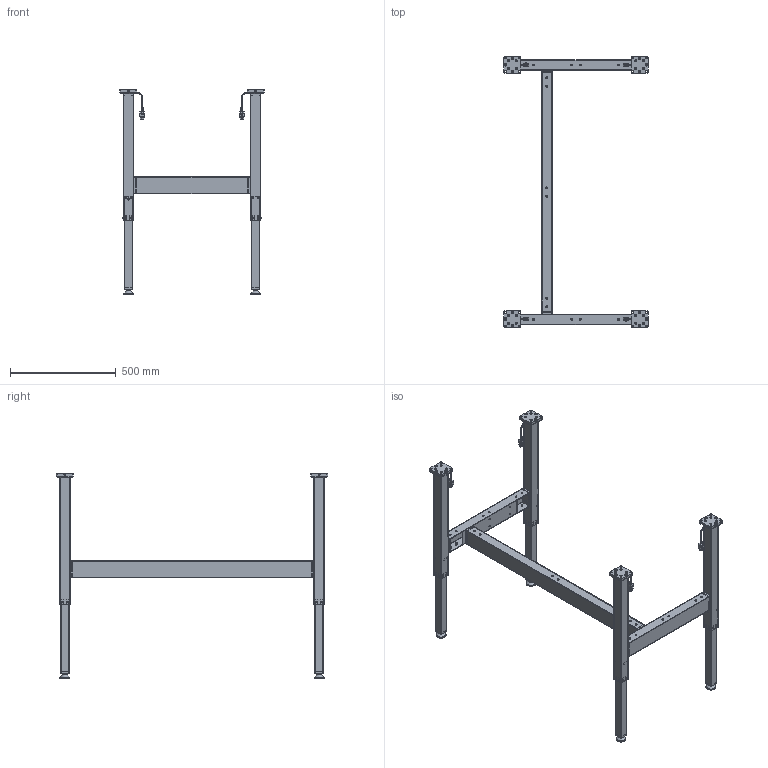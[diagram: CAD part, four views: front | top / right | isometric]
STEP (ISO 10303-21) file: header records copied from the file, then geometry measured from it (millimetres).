
FILE_DESCRIPTION(/* description */ ('Unknown'),/* implementation_level */ '2;1');
FILE_NAME(/* name */ 'Untergestell SE.3 4330 1200_00-Ausgefahren',/* time_stamp */ '2022-02-03T17:12:32+01:00',/* author */ ('Unknown'),/* organization */ ('Unknown'),/* preprocessor_version */ 'ST-DEVELOPER v18.1',/* originating_system */ 'Solid Edge',/* authorisation */ 'Unknown');
FILE_SCHEMA (('AUTOMOTIVE_DESIGN {1 0 10303 214 3 1 1}'));
Length unit declared in the file: millimetre
Products named in the file (29): Untergestell SE.3 4330 1200; 908.02003_oa_0; 127.00655; 127.00658; Aussenrohr 50x50x2 bearbeitet_2018 08 15; Flanschplatte_2018 08 15; Anschweissplatte Traverse_2018 08 15; 127.00658_515_565_Kehlnaht 2_oa_1; 127.00658_515_565_Kehlnaht 2_oa_2; 127.00660; Innenrohr 40x40x2_2018 08 15; Bodenplatte_2018 0815; 128.00070; 142.00077; 142.00166; Kabel Molex; 908.02003_oa_3; 115.00150; 127.00365; 127.00055; 127.00039; 113.00006; 113.00006-ohne Mutter; Mutter M10; 908.02003_oa_6; 908.02003_oa_9; 115.00153; 127.00372; 127.00132
Assembly tree (104 placements, depth 4):
  Untergestell SE.3 4330 1200
    908.02003_oa_0
      127.00655
      127.00658
        Aussenrohr 50x50x2 bearbeitet_2018 08 15
        Flanschplatte_2018 08 15
        Anschweissplatte Traverse_2018 08 15
        127.00658_515_565_Kehlnaht 2_oa_1
        127.00658_515_565_Kehlnaht 2_oa_2
      127.00660
        Innenrohr 40x40x2_2018 08 15
        Bodenplatte_2018 0815
      128.00070  x8
      142.00077  x3
      142.00166  x4
      Kabel Molex
    908.02003_oa_3
      127.00655
      127.00658
        Aussenrohr 50x50x2 bearbeitet_2018 08 15
        Flanschplatte_2018 08 15
        Anschweissplatte Traverse_2018 08 15
        127.00658_515_565_Kehlnaht 2_oa_1
        127.00658_515_565_Kehlnaht 2_oa_2
      127.00660
        Innenrohr 40x40x2_2018 08 15
        Bodenplatte_2018 0815
      128.00070  x8
      142.00077  x3
      142.00166  x4
      Kabel Molex
    115.00150  x2
      127.00365
        127.00055
        127.00039  x2
    113.00006  x4
      113.00006-ohne Mutter
      Mutter M10
    908.02003_oa_6
      127.00655
      127.00658
        Aussenrohr 50x50x2 bearbeitet_2018 08 15
        Flanschplatte_2018 08 15
        Anschweissplatte Traverse_2018 08 15
        127.00658_515_565_Kehlnaht 2_oa_1
        127.00658_515_565_Kehlnaht 2_oa_2
      127.00660
        Innenrohr 40x40x2_2018 08 15
        Bodenplatte_2018 0815
      128.00070  x8
      142.00077  x3
      142.00166  x4
      Kabel Molex
    908.02003_oa_9
      127.00655
      127.00658
        Aussenrohr 50x50x2 bearbeitet_2018 08 15
        Flanschplatte_2018 08 15
        Anschweissplatte Traverse_2018 08 15
        127.00658_515_565_Kehlnaht 2_oa_1
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Bounding box: 680 x 1280 x 963 mm (x, y, z)
Volume: 3142587 mm3; surface area: 2814185.4 mm2
Topology: 141 solids, 141 shells, 4268 faces, 10924 edges, 7198 vertices
Faces by surface type: plane 2866, cylinder 882, torus 220, cone 156, bspline 144
Full cylindrical faces by diameter (mm): 4.917 x76, 5 x24, 5.5 x16, 6 x12, 6.5 x12, 6.647 x12, 6.8 x24, 8.376 x8, 8.5 x16, 9 x74, 9.5 x4, 10 x20, 13 x12, 15 x4, 19 x4, 25 x4, 29 x4, 35 x4, 39 x4, 47 x4
Entity records: 35191 total; most frequent: CARTESIAN_POINT 6665, DIRECTION 4754, ORIENTED_EDGE 4410, EDGE_CURVE 2205, AXIS2_PLACEMENT_3D 1679, VERTEX_POINT 1523, LINE 1396, VECTOR 1396
